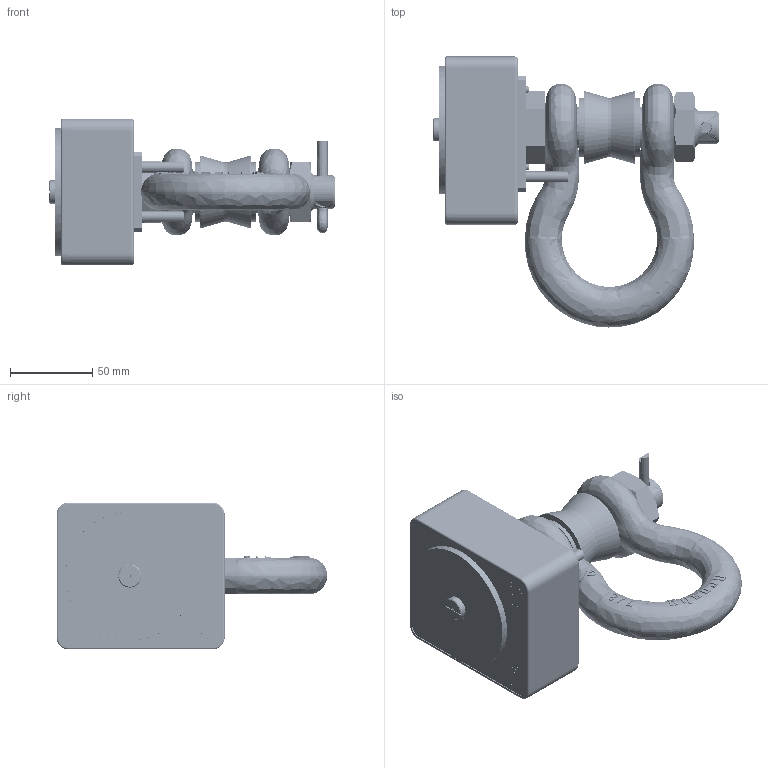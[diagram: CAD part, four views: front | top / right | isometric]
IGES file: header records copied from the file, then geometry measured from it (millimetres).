
Global section: file name: WLS6.5T; native system: Autodesk Inventor 2020; preprocessor: unknown; author: Achacko; date: 20191024.150459; units: millimetre
Bounding box: 173.57 x 164.41 x 89 mm (x, y, z)
Volume: 256257 mm3; surface area: 204470.6 mm2
Topology: 25 solids, 40 shells, 6535 faces, 18066 edges, 11748 vertices
Faces by surface type: bspline 6535
